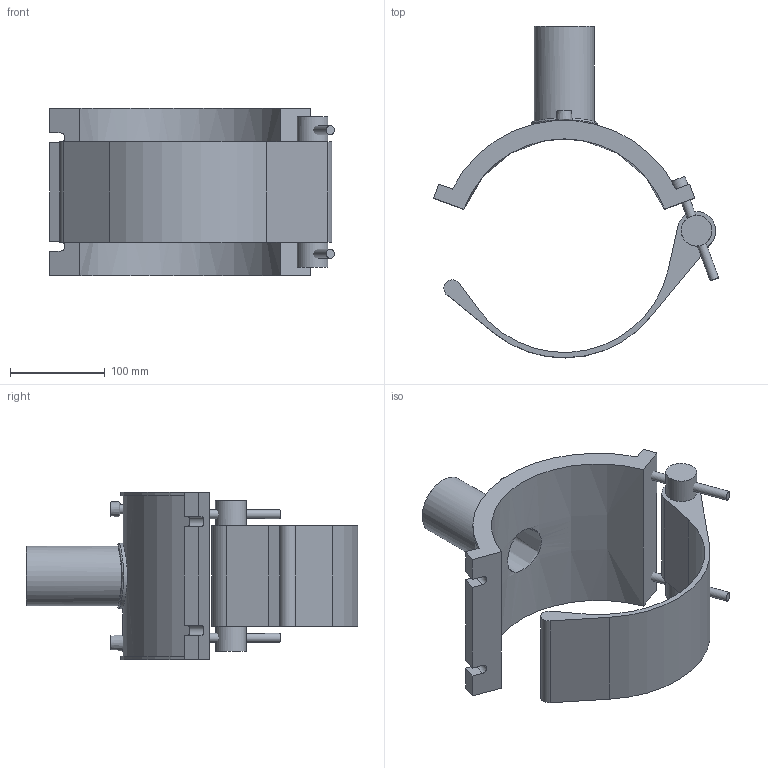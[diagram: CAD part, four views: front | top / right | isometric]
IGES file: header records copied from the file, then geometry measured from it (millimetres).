
Global section: file name: 495804225063.ipt; native system: Autodesk Inventor 2015; preprocessor: unknown; author: KIM; date: 20180426.120901; units: millimetre
Bounding box: 300.23 x 349.61 x 176 mm (x, y, z)
Volume: 1601445.8 mm3; surface area: 280353.7 mm2
Topology: 5 solids, 5 shells, 65 faces, 136 edges, 92 vertices
Faces by surface type: plane 37, cylinder 17, revolution 7, cone 3, bspline 1
Full cylindrical faces by diameter (mm): 4 x2, 9.45 x2, 15.75 x2, 32.4 x2, 63 x1, 69.3 x1
